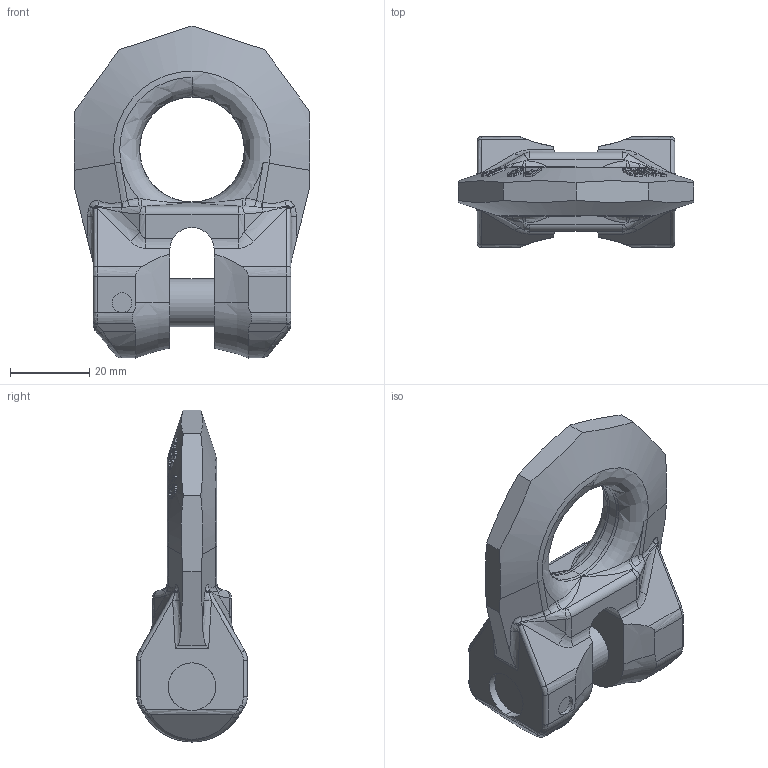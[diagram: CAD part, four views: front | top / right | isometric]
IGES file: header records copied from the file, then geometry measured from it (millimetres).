
Start section:  PTC IGES file: VRG-10_7100471_M31127-P-3.igs
Global section: file name: VRG-10_7100471_M31127-P-3.igs; native system: Pro/ENGINEER by Parametric Technology Corporation; preprocessor: 2010140; author: Andreas.Wendler; organization: Unknown; date: 20140821.135839; units: millimetre
Bounding box: 59.5 x 28 x 84.03 mm (x, y, z)
Volume: 49983.1 mm3; surface area: 12298.8 mm2
Topology: 1 solids, 1 shells, 417 faces, 1095 edges, 692 vertices
Faces by surface type: bspline 313, revolution 104
